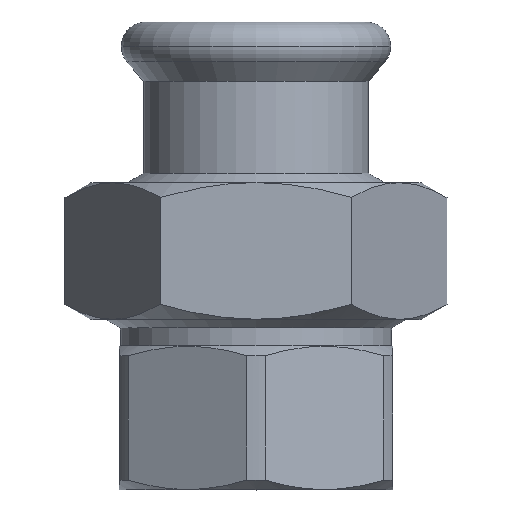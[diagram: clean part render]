
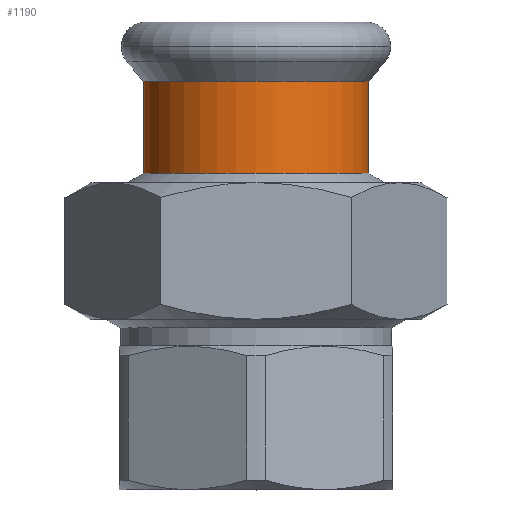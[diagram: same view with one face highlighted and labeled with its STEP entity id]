
A CAD part, top view. The second image highlights one B-rep face of the part: STEP entity #1190.
In plain terms, the highlighted cylindrical face has radius 15.65 mm (diameter 31.3 mm), a partial arc.
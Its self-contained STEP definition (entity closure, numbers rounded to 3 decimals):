
#540=CARTESIAN_POINT('',(-388.656,59.438,0.));
#550=VERTEX_POINT('',#540);
#730=CARTESIAN_POINT('',(-419.956,59.438,
0.));
#740=VERTEX_POINT('',#730);
#770=CARTESIAN_POINT('',(-404.306,59.438,0.));
#780=DIRECTION('',(0.,1.,0.));
#790=DIRECTION('',(-1.,0.,0.));
#800=AXIS2_PLACEMENT_3D('',#770,#780,#790);
#810=CIRCLE('',#800,15.65);
#870=CARTESIAN_POINT('',(-404.306,51.632,0.));
#880=DIRECTION('',(0.,-1.,0.));
#890=DIRECTION('',(-1.,0.,0.));
#900=AXIS2_PLACEMENT_3D('',#870,#880,#890);
#910=CYLINDRICAL_SURFACE('',#900,15.65);
#920=CARTESIAN_POINT('',(-419.956,51.632,0.));
#930=DIRECTION('',(0.,-1.,0.));
#940=VECTOR('',#930,1.);
#950=LINE('',#920,#940);
#960=CARTESIAN_POINT('',(-419.956,46.644,0.));
#970=VERTEX_POINT('',#960);
#980=EDGE_CURVE('',#740,#970,#950,.T.);
#990=ORIENTED_EDGE('',*,*,#980,.T.);
#1000=EDGE_CURVE('',#740,#550,#810,.T.);
#1010=ORIENTED_EDGE('',*,*,#1000,.F.);
#1020=CARTESIAN_POINT('',(-388.656,51.632,
0.));
#1030=DIRECTION('',(0.,-1.,0.));
#1040=VECTOR('',#1030,1.);
#1050=LINE('',#1020,#1040);
#1060=CARTESIAN_POINT('',(-388.656,46.644,
0.));
#1070=VERTEX_POINT('',#1060);
#1080=EDGE_CURVE('',#550,#1070,#1050,.T.);
#1090=ORIENTED_EDGE('',*,*,#1080,.F.);
#1100=CARTESIAN_POINT('',(-404.306,46.644,0.));
#1110=DIRECTION('',(0.,-1.,0.));
#1120=DIRECTION('',(-1.,0.,0.));
#1130=AXIS2_PLACEMENT_3D('',#1100,#1110,#1120);
#1140=CIRCLE('',#1130,15.65);
#1150=EDGE_CURVE('',#1070,#970,#1140,.T.);
#1160=ORIENTED_EDGE('',*,*,#1150,.F.);
#1170=EDGE_LOOP('',(#1160,#1090,#1010,#990));
#1180=FACE_OUTER_BOUND('',#1170,.T.);
#1190=ADVANCED_FACE('',(#1180),#910,.T.);
